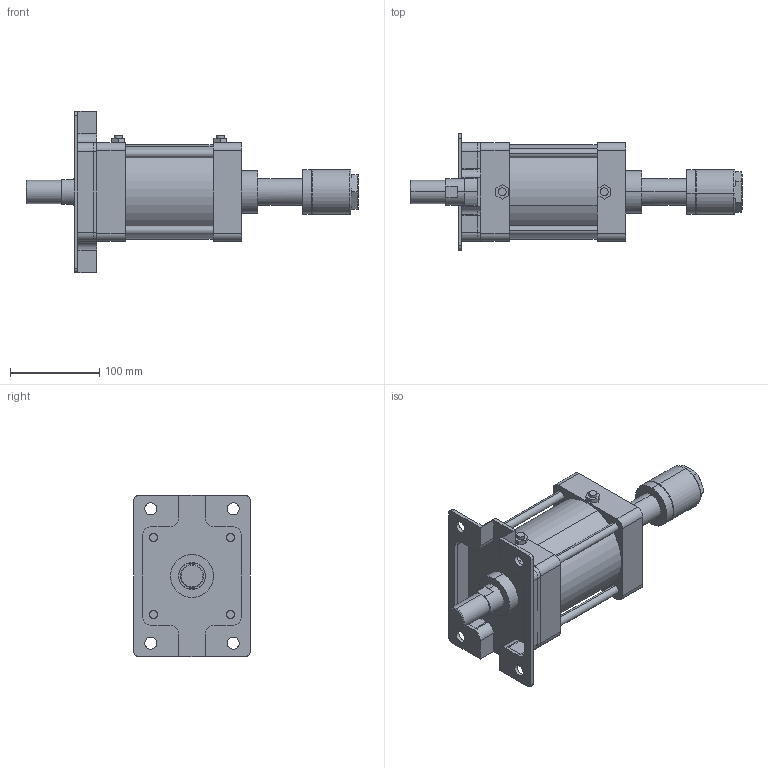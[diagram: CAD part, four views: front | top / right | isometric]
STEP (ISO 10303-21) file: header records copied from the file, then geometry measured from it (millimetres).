
FILE_DESCRIPTION (( 'STEP AP203' ), '1' );
FILE_NAME ('KGA7-100#-50-A.STEP', '2016-04-14T07:55:02', ( '' ), ( '' ), 'SwSTEP 2.0', 'SolidWorks 2014', '' );
FILE_SCHEMA (( 'CONFIG_CONTROL_DESIGN' ));
Length unit declared in the file: millimetre
Products named in the file (9): K#7-100-50-After; KGA7-100#-50-A; KGLH2-100-50; KGA7-100-Turn; K-100-AB
Assembly tree (18 placements, depth 2):
  KGA7-100#-50-A
    K#7-100-50-After
    KGLH2-100-50
    (unnamed)
    (unnamed)  x4
    (unnamed)  x8
    K-100-AB
    KGA7-100-Turn
    (unnamed)
Bounding box: 371 x 130 x 180 mm (x, y, z)
Volume: 1753264.6 mm3; surface area: 303434.7 mm2
Topology: 18 solids, 18 shells, 424 faces, 1025 edges, 658 vertices
Faces by surface type: plane 181, cylinder 169, torus 46, cone 28
Entity records: 11575 total; most frequent: CARTESIAN_POINT 2050, DIRECTION 1829, ORIENTED_EDGE 1670, EDGE_CURVE 835, AXIS2_PLACEMENT_3D 685, VERTEX_POINT 548, LINE 459, VECTOR 459
